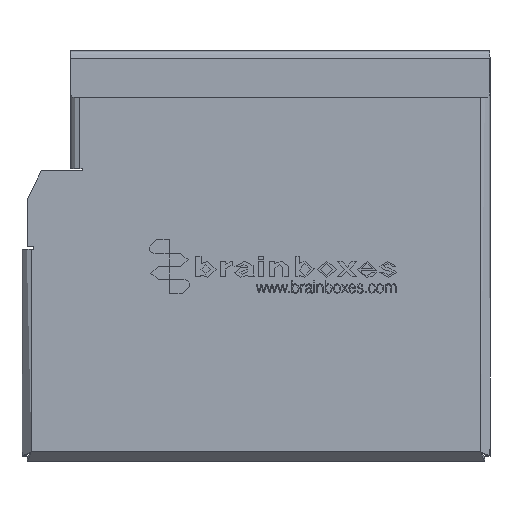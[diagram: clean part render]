
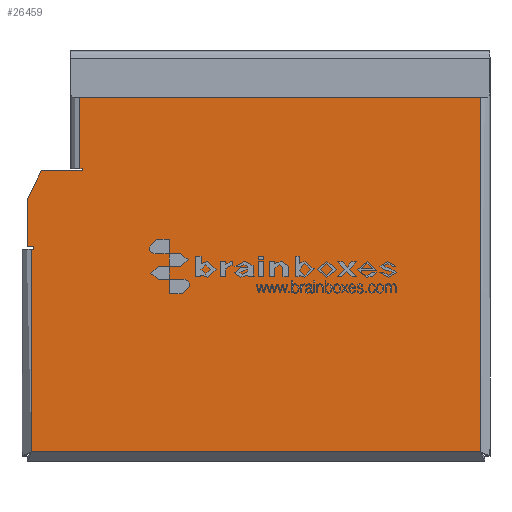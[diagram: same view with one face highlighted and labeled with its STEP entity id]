
A CAD part, top view. The second image highlights one B-rep face of the part: STEP entity #26459.
In plain terms, the highlighted planar face has unit normal (0, 0, 1) as drawn and (0, 1, 0) by its records, which use the part's own axes.
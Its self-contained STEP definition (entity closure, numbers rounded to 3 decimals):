
#26459=ADVANCED_FACE('',(#54149),#54150,.T.);
#54149=FACE_OUTER_BOUND('',#87080,.T.);
#54150=PLANE('',#87081);
#87080=EDGE_LOOP('',(#170746,#170747,#170748,#170749,#170750,#170751,#170752,#170753,#170754,#170755,#170756,#170757,#170758));
#87081=AXIS2_PLACEMENT_3D('',#170759,#170760,#170761);
#170746=ORIENTED_EDGE('',*,*,#212138,.F.);
#170747=ORIENTED_EDGE('',*,*,#212139,.F.);
#170748=ORIENTED_EDGE('',*,*,#212140,.T.);
#170749=ORIENTED_EDGE('',*,*,#212141,.T.);
#170750=ORIENTED_EDGE('',*,*,#212142,.T.);
#170751=ORIENTED_EDGE('',*,*,#212143,.T.);
#170752=ORIENTED_EDGE('',*,*,#212144,.T.);
#170753=ORIENTED_EDGE('',*,*,#212145,.T.);
#170754=ORIENTED_EDGE('',*,*,#212130,.T.);
#170755=ORIENTED_EDGE('',*,*,#212146,.T.);
#170756=ORIENTED_EDGE('',*,*,#212147,.T.);
#170757=ORIENTED_EDGE('',*,*,#212148,.T.);
#170758=ORIENTED_EDGE('',*,*,#212134,.T.);
#170759=CARTESIAN_POINT('',(0.0,0.0,0.0));
#170760=DIRECTION('',(0.0,1.0,0.0));
#170761=DIRECTION('',(1.0,0.0,-0.0));
#212130=EDGE_CURVE('',#262217,#262215,#262218,.T.);
#212134=EDGE_CURVE('',#262224,#262222,#262225,.T.);
#212138=EDGE_CURVE('',#262230,#262222,#262231,.T.);
#212139=EDGE_CURVE('',#262232,#262230,#262233,.T.);
#212140=EDGE_CURVE('',#262232,#262234,#262235,.T.);
#212141=EDGE_CURVE('',#262234,#262236,#262237,.T.);
#212142=EDGE_CURVE('',#262236,#262238,#262239,.T.);
#212143=EDGE_CURVE('',#262238,#262240,#262241,.F.);
#212144=EDGE_CURVE('',#262240,#262242,#262243,.F.);
#212145=EDGE_CURVE('',#262242,#262217,#262244,.F.);
#212146=EDGE_CURVE('',#262215,#262245,#262246,.F.);
#212147=EDGE_CURVE('',#262245,#262247,#262248,.T.);
#212148=EDGE_CURVE('',#262247,#262224,#262249,.T.);
#262215=VERTEX_POINT('',#336585);
#262217=VERTEX_POINT('',#336588);
#262218=LINE('',#336589,#336590);
#262222=VERTEX_POINT('',#336595);
#262224=VERTEX_POINT('',#336598);
#262225=LINE('',#336599,#336600);
#262230=VERTEX_POINT('',#336607);
#262231=LINE('',#336608,#336609);
#262232=VERTEX_POINT('',#336610);
#262233=LINE('',#336611,#336612);
#262234=VERTEX_POINT('',#336613);
#262235=LINE('',#336614,#336615);
#262236=VERTEX_POINT('',#336616);
#262237=LINE('',#336617,#336618);
#262238=VERTEX_POINT('',#336619);
#262239=LINE('',#336620,#336621);
#262240=VERTEX_POINT('',#336622);
#262241=LINE('',#336623,#336624);
#262242=VERTEX_POINT('',#336625);
#262243=LINE('',#336626,#336627);
#262244=LINE('',#336628,#336629);
#262245=VERTEX_POINT('',#336630);
#262246=LINE('',#336631,#336632);
#262247=VERTEX_POINT('',#336633);
#262248=LINE('',#336634,#336635);
#262249=LINE('',#336636,#336637);
#336585=CARTESIAN_POINT('',(-37.35,0.,-42.35));
#336588=CARTESIAN_POINT('',(47.65,0.0,-42.35));
#336589=CARTESIAN_POINT('',(48.65,0.0,-42.35));
#336590=VECTOR('',#372402,1000.0);
#336595=CARTESIAN_POINT('',(-45.55,0.0,-18.25));
#336598=CARTESIAN_POINT('',(-36.85,0.0,-18.25));
#336599=CARTESIAN_POINT('',(-38.35,0.0,-18.25));
#336600=VECTOR('',#372405,1000.0);
#336607=CARTESIAN_POINT('',(-48.55,0.0,-12.25));
#336608=CARTESIAN_POINT('',(-45.55,0.0,-18.25));
#336609=VECTOR('',#372408,1000.0);
#336610=CARTESIAN_POINT('',(-48.55,0.0,-2.15));
#336611=CARTESIAN_POINT('',(-48.55,0.0,-2.15));
#336612=VECTOR('',#372409,1000.0);
#336613=CARTESIAN_POINT('',(-47.15,0.0,-2.15));
#336614=CARTESIAN_POINT('',(0.,0.0,-2.15));
#336615=VECTOR('',#372410,1000.0);
#336616=CARTESIAN_POINT('',(-47.15,0.0,-1.65));
#336617=CARTESIAN_POINT('',(-47.15,0.0,0.0));
#336618=VECTOR('',#372411,1000.0);
#336619=CARTESIAN_POINT('',(-47.65,0.,-1.65));
#336620=CARTESIAN_POINT('',(0.0,0.0,-1.65));
#336621=VECTOR('',#372412,1000.0);
#336622=CARTESIAN_POINT('',(-47.65,0.,41.35));
#336623=CARTESIAN_POINT('',(-47.65,0.,-1.65));
#336624=VECTOR('',#372413,1000.0);
#336625=CARTESIAN_POINT('',(47.65,0.,41.35));
#336626=CARTESIAN_POINT('',(-48.509,0.,41.35));
#336627=VECTOR('',#372414,1000.0);
#336628=CARTESIAN_POINT('',(47.65,0.,42.209));
#336629=VECTOR('',#372415,1000.0);
#336630=CARTESIAN_POINT('',(-37.35,0.0,-18.75));
#336631=CARTESIAN_POINT('',(-37.35,0.,-42.35));
#336632=VECTOR('',#372416,1000.0);
#336633=CARTESIAN_POINT('',(-36.85,0.0,-18.75));
#336634=CARTESIAN_POINT('',(0.0,0.0,-18.75));
#336635=VECTOR('',#372417,1000.0);
#336636=CARTESIAN_POINT('',(-36.85,0.0,0.0));
#336637=VECTOR('',#372418,1000.0);
#372402=DIRECTION('',(-1.0,0.0,0.));
#372405=DIRECTION('',(-1.0,0.0,0.0));
#372408=DIRECTION('',(0.447,-0.0,-0.894));
#372409=DIRECTION('',(0.0,0.0,-1.0));
#372410=DIRECTION('',(1.0,0.0,0.));
#372411=DIRECTION('',(0.0,-0.0,1.0));
#372412=DIRECTION('',(-1.0,0.0,0.0));
#372413=DIRECTION('',(0.0,0.,-1.0));
#372414=DIRECTION('',(-1.0,-0.0,-0.0));
#372415=DIRECTION('',(0.0,0.0,1.0));
#372416=DIRECTION('',(0.0,0.0,-1.0));
#372417=DIRECTION('',(1.0,0.0,-0.0));
#372418=DIRECTION('',(0.0,-0.0,1.0));
